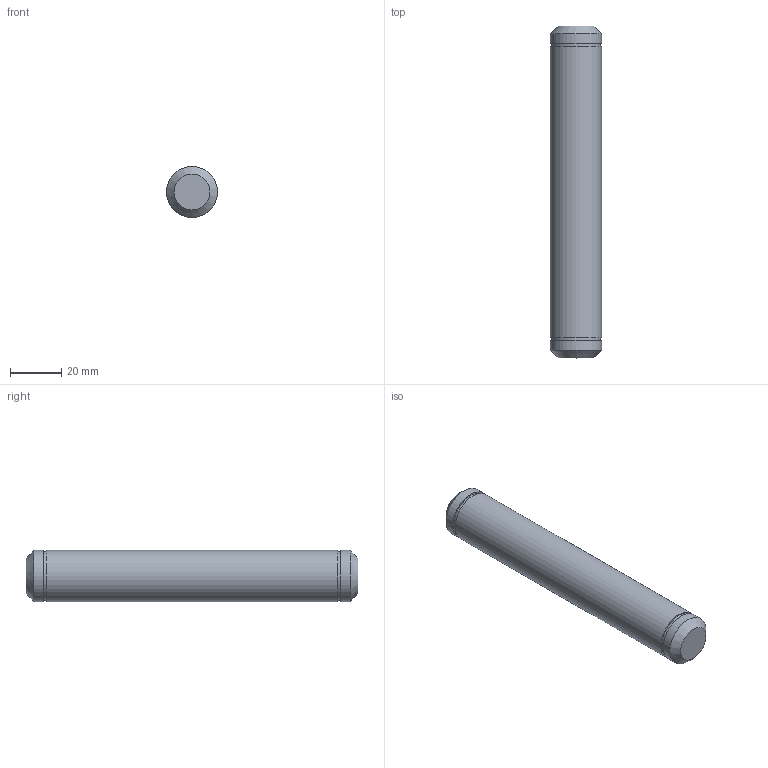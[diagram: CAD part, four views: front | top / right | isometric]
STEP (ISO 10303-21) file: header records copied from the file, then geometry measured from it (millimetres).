
FILE_DESCRIPTION(/* description */ (''),/* implementation_level */ '2;1');
FILE_NAME(/* name */ '2020TOMO-TELAIO.Rullo.02.stp',/* time_stamp */ '2022-05-16T13:08:25+02:00',/* author */ (''),/* organization */ (''),/* preprocessor_version */ 'ST-DEVELOPER v18.102',/* originating_system */ 'SIEMENS PLM Software NX 2000',/* authorisation */ '');
FILE_SCHEMA (('AUTOMOTIVE_DESIGN { 1 0 10303 214 3 1 1 1 }'));
Length unit declared in the file: millimetre
Products named in the file (1): turc3144724Fyy2y
Bounding box: 20 x 130 x 20 mm (x, y, z)
Volume: 40252.1 mm3; surface area: 8666.6 mm2
Topology: 1 solids, 1 shells, 13 faces, 22 edges, 15 vertices
Faces by surface type: plane 6, cylinder 5, cone 2
Full cylindrical faces by diameter (mm): 19 x2, 20 x3
Entity records: 286 total; most frequent: DIRECTION 52, CARTESIAN_POINT 38, AXIS2_PLACEMENT_3D 26, EDGE_LOOP 24, ORIENTED_EDGE 24, FACE_BOUND 22, ADVANCED_FACE 13, VERTEX_POINT 12
